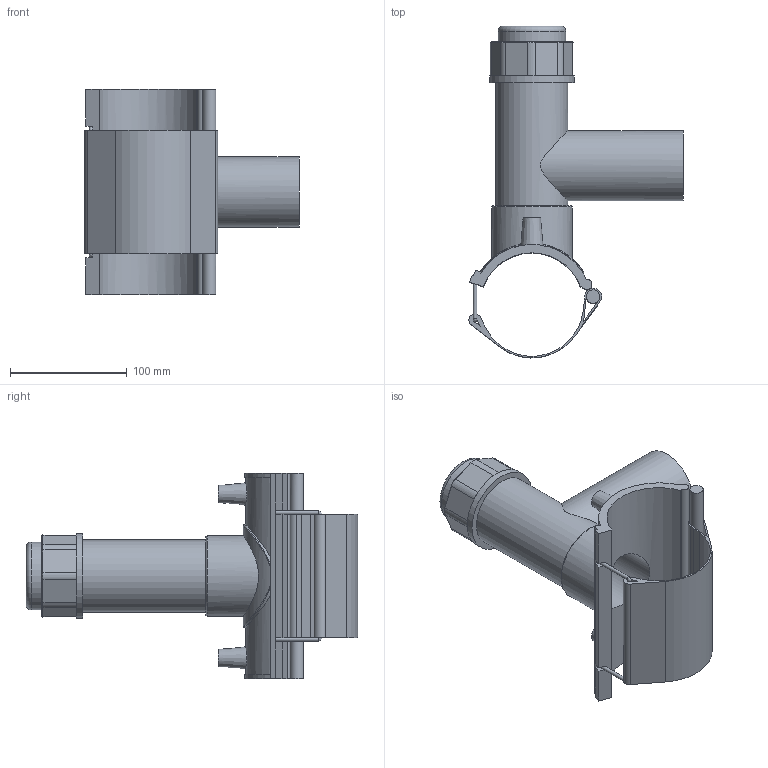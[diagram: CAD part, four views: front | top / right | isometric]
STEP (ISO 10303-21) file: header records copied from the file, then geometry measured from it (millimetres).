
FILE_DESCRIPTION(/* description */ ('PLASSON TAPPING SADDLE 3''''IPS x 2''''IPS'),/* implementation_level */ '2;1');
FILE_NAME(/* name */ 'C:\Dropbox\KIMPROJECTS-Inventor 2019\99-16-3568-Processing Inch\ASTM ElectroFusion 2021\5913B\5913BB03030020.ipt.stp',/* time_stamp */ '2021-08-30T09:50:24+03:00',/* author */ ('KIM'),/* organization */ (''),/* preprocessor_version */ 'ST-DEVELOPER v17.2',/* originating_system */ 'Autodesk Inventor 2019',/* authorisation */ '');
FILE_SCHEMA (('AUTOMOTIVE_DESIGN { 1 0 10303 214 3 1 1 }'));
Length unit declared in the file: millimetre
Products named in the file (1): 5913BB03030020
Bounding box: 183.88 x 284.84 x 176.02 mm (x, y, z)
Volume: 646270.5 mm3; surface area: 198998.8 mm2
Topology: 1 solids, 1 shells, 126 faces, 339 edges, 214 vertices
Faces by surface type: plane 69, cylinder 42, cone 11, bspline 3, torus 1
Full cylindrical faces by diameter (mm): 3.193 x2, 4 x2, 10 x2, 11.531 x1, 48.08 x1, 50.914 x1, 58.187 x1, 60.1 x1, 61.824 x1, 69.097 x1, 72.734 x1, 88.7 x1
Entity records: 4743 total; most frequent: CARTESIAN_POINT 1465, DIRECTION 687, ORIENTED_EDGE 676, EDGE_CURVE 338, AXIS2_PLACEMENT_3D 249, VERTEX_POINT 214, LINE 189, VECTOR 189
